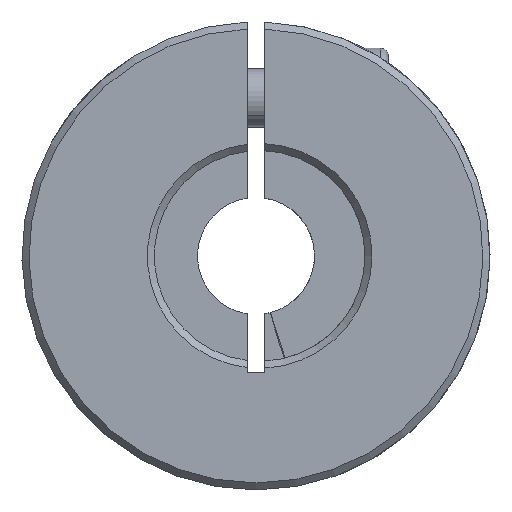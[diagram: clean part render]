
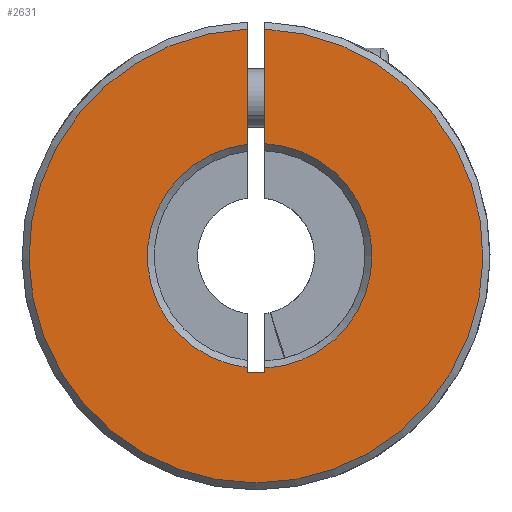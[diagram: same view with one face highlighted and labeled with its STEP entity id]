
A CAD part, front view. The second image highlights one B-rep face of the part: STEP entity #2631.
In plain terms, the highlighted planar face has unit normal (0, -1, 0).
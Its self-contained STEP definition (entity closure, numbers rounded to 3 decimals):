
#36 = ORIENTED_EDGE ( 'NONE', *, *, #5921, .T. ) ;
#60 = ORIENTED_EDGE ( 'NONE', *, *, #3951, .T. ) ;
#97 = DIRECTION ( 'NONE',  ( 0., 0., 1. ) ) ;
#235 = AXIS2_PLACEMENT_3D ( 'NONE', #1047, #2954, #97 ) ;
#315 = VECTOR ( 'NONE', #2332, 1000. ) ;
#388 = CARTESIAN_POINT ( 'NONE',  ( -0.75, -30., 19.385 ) ) ;
#521 = VECTOR ( 'NONE', #1639, 1000. ) ;
#740 = CARTESIAN_POINT ( 'NONE',  ( 0.75, -30., -10. ) ) ;
#752 = EDGE_LOOP ( 'NONE', ( #4867, #36, #3760, #60, #3869, #4492, #5626, #3966 ) ) ;
#936 = EDGE_CURVE ( 'NONE', #4185, #5854, #5404, .T. ) ;
#987 = DIRECTION ( 'NONE',  ( 0., 1., 0. ) ) ;
#992 = EDGE_CURVE ( 'NONE', #5349, #2980, #3215, .T. ) ;
#1047 = CARTESIAN_POINT ( 'NONE',  ( 0.314, -30., 0. ) ) ;
#1060 = DIRECTION ( 'NONE',  ( 0., 0., 1. ) ) ;
#1122 = VECTOR ( 'NONE', #1060, 1000. ) ;
#1235 = CARTESIAN_POINT ( 'NONE',  ( -0.75, -30., -10. ) ) ;
#1347 = CARTESIAN_POINT ( 'NONE',  ( 0.75, -30., -10. ) ) ;
#1410 = PLANE ( 'NONE',  #1709 ) ;
#1467 = DIRECTION ( 'NONE',  ( -1., 0., 0. ) ) ;
#1585 = CARTESIAN_POINT ( 'NONE',  ( -0.75, -30., 9.541 ) ) ;
#1639 = DIRECTION ( 'NONE',  ( 0., 0., -1. ) ) ;
#1670 = EDGE_CURVE ( 'NONE', #5854, #5920, #4519, .T. ) ;
#1696 = DIRECTION ( 'NONE',  ( 0., -1., 0. ) ) ;
#1709 = AXIS2_PLACEMENT_3D ( 'NONE', #5678, #5165, #4733 ) ;
#1746 = AXIS2_PLACEMENT_3D ( 'NONE', #2349, #987, #4162 ) ;
#1980 = VERTEX_POINT ( 'NONE', #5660 ) ;
#2038 = CIRCLE ( 'NONE', #1746, 9.6 ) ;
#2147 = LINE ( 'NONE', #740, #521 ) ;
#2272 = CIRCLE ( 'NONE', #235, 9.6 ) ;
#2332 = DIRECTION ( 'NONE',  ( 0., 0., 1. ) ) ;
#2349 = CARTESIAN_POINT ( 'NONE',  ( 0.314, -30., 0. ) ) ;
#2384 = VECTOR ( 'NONE', #1467, 1000. ) ;
#2631 = ADVANCED_FACE ( 'NONE', ( #3317 ), #1410, .F. ) ;
#2745 = CARTESIAN_POINT ( 'NONE',  ( 0.75, -30., 19.385 ) ) ;
#2901 = CARTESIAN_POINT ( 'NONE',  ( -0.75, -30., -9.541 ) ) ;
#2908 = CARTESIAN_POINT ( 'NONE',  ( -0.75, -30., -10. ) ) ;
#2936 = LINE ( 'NONE', #2908, #1122 ) ;
#2954 = DIRECTION ( 'NONE',  ( 0., 1., 0. ) ) ;
#2980 = VERTEX_POINT ( 'NONE', #4146 ) ;
#3123 = VECTOR ( 'NONE', #5130, 1000. ) ;
#3183 = EDGE_CURVE ( 'NONE', #1980, #3448, #2936, .T. ) ;
#3215 = LINE ( 'NONE', #1347, #3123 ) ;
#3317 = FACE_OUTER_BOUND ( 'NONE', #752, .T. ) ;
#3345 = CARTESIAN_POINT ( 'NONE',  ( -0.75, -30., -10. ) ) ;
#3448 = VERTEX_POINT ( 'NONE', #2901 ) ;
#3546 = EDGE_CURVE ( 'NONE', #5920, #4078, #2147, .T. ) ;
#3662 = LINE ( 'NONE', #3345, #2384 ) ;
#3760 = ORIENTED_EDGE ( 'NONE', *, *, #992, .T. ) ;
#3869 = ORIENTED_EDGE ( 'NONE', *, *, #3183, .T. ) ;
#3951 = EDGE_CURVE ( 'NONE', #2980, #1980, #3662, .T. ) ;
#3966 = ORIENTED_EDGE ( 'NONE', *, *, #1670, .T. ) ;
#4078 = VERTEX_POINT ( 'NONE', #4552 ) ;
#4146 = CARTESIAN_POINT ( 'NONE',  ( 0.75, -30., -10. ) ) ;
#4162 = DIRECTION ( 'NONE',  ( 0., 0., 1. ) ) ;
#4185 = VERTEX_POINT ( 'NONE', #1585 ) ;
#4492 = ORIENTED_EDGE ( 'NONE', *, *, #4865, .T. ) ;
#4519 = CIRCLE ( 'NONE', #4710, 19.4 ) ;
#4552 = CARTESIAN_POINT ( 'NONE',  ( 0.75, -30., 9.59 ) ) ;
#4710 = AXIS2_PLACEMENT_3D ( 'NONE', #4895, #1696, #5420 ) ;
#4733 = DIRECTION ( 'NONE',  ( 0., 0., 1. ) ) ;
#4865 = EDGE_CURVE ( 'NONE', #3448, #4185, #2272, .T. ) ;
#4867 = ORIENTED_EDGE ( 'NONE', *, *, #3546, .T. ) ;
#4895 = CARTESIAN_POINT ( 'NONE',  ( 0., -30., 0. ) ) ;
#5130 = DIRECTION ( 'NONE',  ( 0., 0., -1. ) ) ;
#5165 = DIRECTION ( 'NONE',  ( 0., 1., 0. ) ) ;
#5349 = VERTEX_POINT ( 'NONE', #5914 ) ;
#5404 = LINE ( 'NONE', #1235, #315 ) ;
#5420 = DIRECTION ( 'NONE',  ( 0., 0., 1. ) ) ;
#5626 = ORIENTED_EDGE ( 'NONE', *, *, #936, .T. ) ;
#5660 = CARTESIAN_POINT ( 'NONE',  ( -0.75, -30., -10. ) ) ;
#5678 = CARTESIAN_POINT ( 'NONE',  ( 0., -30., 0. ) ) ;
#5854 = VERTEX_POINT ( 'NONE', #388 ) ;
#5914 = CARTESIAN_POINT ( 'NONE',  ( 0.75, -30., -9.59 ) ) ;
#5920 = VERTEX_POINT ( 'NONE', #2745 ) ;
#5921 = EDGE_CURVE ( 'NONE', #4078, #5349, #2038, .T. ) ;
